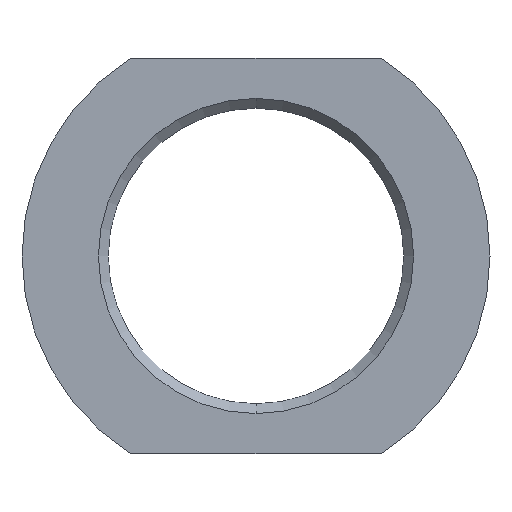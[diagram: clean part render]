
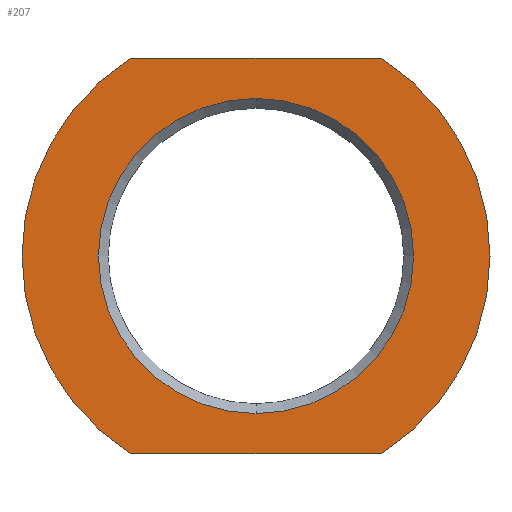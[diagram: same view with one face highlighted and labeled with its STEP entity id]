
A CAD part, front view. The second image highlights one B-rep face of the part: STEP entity #207.
In plain terms, the highlighted planar face has unit normal (0, -1, 0).
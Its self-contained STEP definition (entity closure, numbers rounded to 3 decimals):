
#1=CARTESIAN_POINT('POINT8745',(-35.5,-8.,
   0.));
#2=VERTEX_POINT('VERTEX8745',#1);
#20=CARTESIAN_POINT('POINT8748',(-18.98,-8.,
   -30.));
#21=VERTEX_POINT('VERTEX8748',#20);
#28=CARTESIAN_POINT('POS13121',(0.,-8.,0.
   ));
#29=DIRECTION('DIR19442',(0.,-1.,0.));
#30=DIRECTION('DIR19443',(1.,0.,0.));
#31=AXIS2_PLACEMENT_3D('AXIS6322',#28,#29,#30);
#32=CIRCLE('ELLIPSE2454',#31,35.5);
#33=EDGE_CURVE('EDGE13870',#2,#21,#32,.T.);
#44=CARTESIAN_POINT('POINT8749',(-18.98,-8.,
   30.));
#45=VERTEX_POINT('VERTEX8749',#44);
#46=EDGE_CURVE('EDGE13871',#45,#2,#32,.T.);
#62=CARTESIAN_POINT('POINT8751',(18.98,-8.,
   30.));
#63=VERTEX_POINT('VERTEX8751',#62);
#64=CARTESIAN_POINT('POS13124',(0.,-8.,30.));
#65=DIRECTION('DIR19447',(-1.,0.,0.));
#66=VECTOR('VEC6801',#65,1.);
#67=LINE('STRAIGHT6801',#64,#66);
#68=EDGE_CURVE('EDGE13874',#63,#45,#67,.T.);
#94=CARTESIAN_POINT('POINT8754',(35.5,-8.,
   0.));
#95=VERTEX_POINT('VERTEX8754',#94);
#105=EDGE_CURVE('EDGE13879',#95,#63,#32,.T.);
#111=CARTESIAN_POINT('POINT8755',(18.98,-8.,
   -30.));
#112=VERTEX_POINT('VERTEX8755',#111);
#113=EDGE_CURVE('EDGE13880',#112,#95,#32,.T.);
#136=CARTESIAN_POINT('POS13131',(0.,-8.,-30.));
#137=DIRECTION('DIR19455',(1.,0.,0.));
#138=VECTOR('VEC6807',#137,1.);
#139=LINE('STRAIGHT6807',#136,#138);
#140=EDGE_CURVE('EDGE13884',#21,#112,#139,.T.);
#179=CARTESIAN_POINT('POINT8759',(0.,-8.,
   23.902));
#180=VERTEX_POINT('VERTEX8759',#179);
#181=CARTESIAN_POINT('POINT8760',(0.,-8.,
   -23.902));
#182=VERTEX_POINT('VERTEX8760',#181);
#183=CARTESIAN_POINT('POS13135',(0.,-8.,0.));
#184=DIRECTION('DIR19462',(0.,1.,
   0.));
#185=DIRECTION('DIR19463',(0.,0.,
   1.));
#186=AXIS2_PLACEMENT_3D('AXIS6328',#183,#184,#185);
#187=CIRCLE('ELLIPSE2456',#186,23.902);
#188=EDGE_CURVE('EDGE13887',#180,#182,#187,.T.);
#189=ORIENTED_EDGE('COEDGE27765',*,*,#188,.T.);
#190=EDGE_CURVE('EDGE13888',#182,#180,#187,.T.);
#191=ORIENTED_EDGE('COEDGE27766',*,*,#190,.T.);
#192=EDGE_LOOP('NONE',(#189,#191));
#193=FACE_BOUND('LOOP1',#192,.T.);
#194=ORIENTED_EDGE('COEDGE27767',*,*,#140,.T.);
#195=ORIENTED_EDGE('COEDGE27768',*,*,#113,.T.);
#196=ORIENTED_EDGE('COEDGE27769',*,*,#105,.T.);
#197=ORIENTED_EDGE('COEDGE27770',*,*,#68,.T.);
#198=ORIENTED_EDGE('COEDGE27771',*,*,#46,.T.);
#199=ORIENTED_EDGE('COEDGE27772',*,*,#33,.T.);
#200=EDGE_LOOP('NONE',(#194,#195,#196,#197,#198,#199));
#201=FACE_BOUND('LOOP1',#200,.T.);
#202=CARTESIAN_POINT('POS13136',(0.,-8.,
   0.));
#203=DIRECTION('DIR19464',(0.,-1.,0.));
#204=DIRECTION('DIR19465',(1.,0.,0.));
#205=AXIS2_PLACEMENT_3D('AXIS6329',#202,#203,#204);
#206=PLANE('PLANE2653',#205);
#207=ADVANCED_FACE('FACE6035',(#193,#201),#206,.T.);
